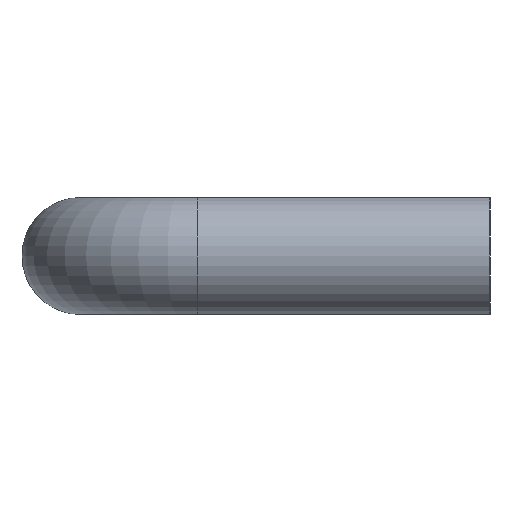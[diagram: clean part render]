
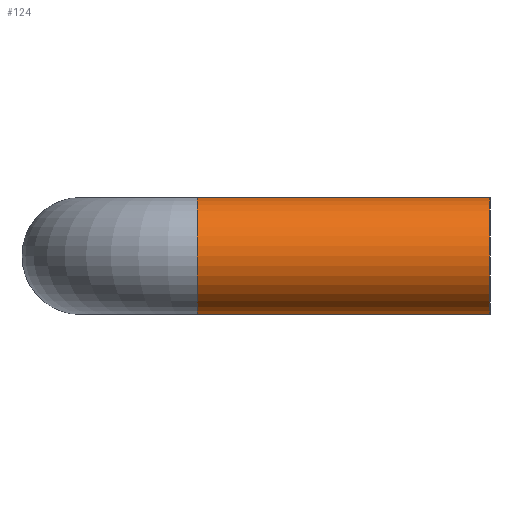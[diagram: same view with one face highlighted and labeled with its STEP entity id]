
A CAD part, left-side view. The second image highlights one B-rep face of the part: STEP entity #124.
In plain terms, the highlighted cylindrical face has radius 3 mm (diameter 6 mm), a full revolution.
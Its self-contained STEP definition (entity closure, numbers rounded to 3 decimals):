
#25=FACE_BOUND('',#59,.T.);
#32=CYLINDRICAL_SURFACE('',#146,3.);
#41=FACE_OUTER_BOUND('',#58,.T.);
#58=EDGE_LOOP('',(#108));
#59=EDGE_LOOP('',(#109));
#72=CIRCLE('',#145,3.);
#73=CIRCLE('',#147,3.);
#82=VERTEX_POINT('',#219);
#83=VERTEX_POINT('',#222);
#92=EDGE_CURVE('',#82,#82,#72,.T.);
#93=EDGE_CURVE('',#83,#83,#73,.T.);
#108=ORIENTED_EDGE('',*,*,#92,.T.);
#109=ORIENTED_EDGE('',*,*,#93,.T.);
#124=ADVANCED_FACE('',(#41,#25),#32,.T.);
#145=AXIS2_PLACEMENT_3D('',#220,#184,#185);
#146=AXIS2_PLACEMENT_3D('',#221,#186,#187);
#147=AXIS2_PLACEMENT_3D('',#223,#188,#189);
#184=DIRECTION('center_axis',(0.,-1.,0.));
#185=DIRECTION('ref_axis',(-1.,0.,0.));
#186=DIRECTION('center_axis',(0.,1.,0.));
#187=DIRECTION('ref_axis',(-1.,0.,0.));
#188=DIRECTION('center_axis',(0.,1.,0.));
#189=DIRECTION('ref_axis',(-1.,0.,0.));
#219=CARTESIAN_POINT('',(3.,15.,0.));
#220=CARTESIAN_POINT('Origin',(0.,15.,0.));
#221=CARTESIAN_POINT('Origin',(0.,0.,0.));
#222=CARTESIAN_POINT('',(3.,0.,0.));
#223=CARTESIAN_POINT('Origin',(0.,0.,0.));
